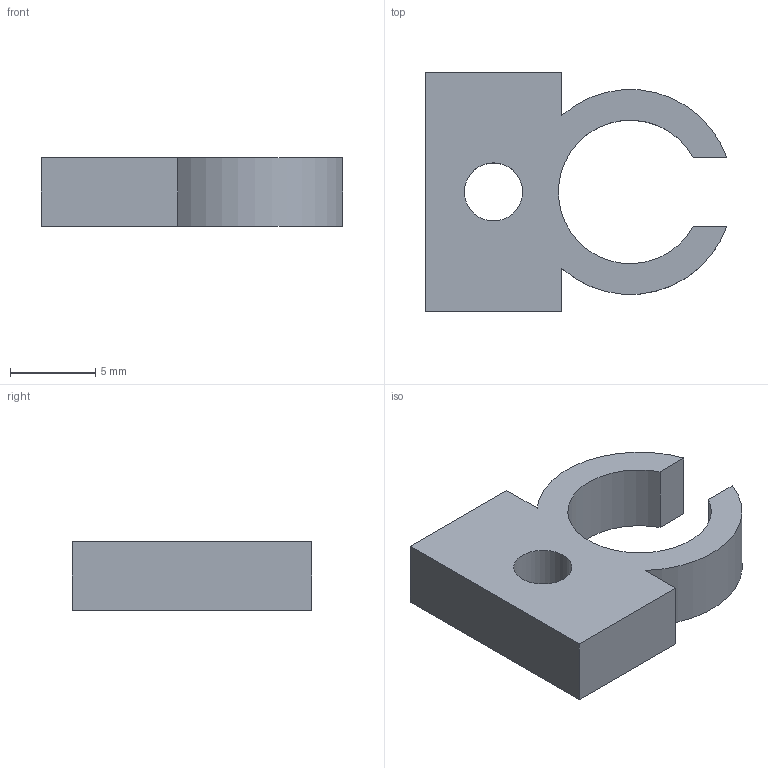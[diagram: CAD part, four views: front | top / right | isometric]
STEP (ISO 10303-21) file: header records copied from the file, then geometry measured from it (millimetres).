
FILE_DESCRIPTION(('Open CASCADE Model'),'2;1');
FILE_NAME('Open CASCADE Shape Model','2026-09-13T21:26:54',('Author'),( 'Open CASCADE'),'Open CASCADE STEP processor 7.9','Open CASCADE 7.9' ,'Unknown');
FILE_SCHEMA(('AUTOMOTIVE_DESIGN { 1 0 10303 214 1 1 1 1 }'));
Length unit declared in the file: millimetre
Products named in the file (1): Open CASCADE STEP translator 7.9 4
Bounding box: 17.66 x 14 x 4 mm (x, y, z)
Volume: 563.2 mm3; surface area: 663.3 mm2
Topology: 1 solids, 1 shells, 13 faces, 33 edges, 22 vertices
Faces by surface type: plane 9, cylinder 4
Full cylindrical faces by diameter (mm): 3.4 x1
Entity records: 824 total; most frequent: CARTESIAN_POINT 167, DIRECTION 113, ORIENTED_EDGE 66, PCURVE 66, DEFINITIONAL_REPRESENTATION 66, LINE 63, VECTOR 63, EDGE_CURVE 33
